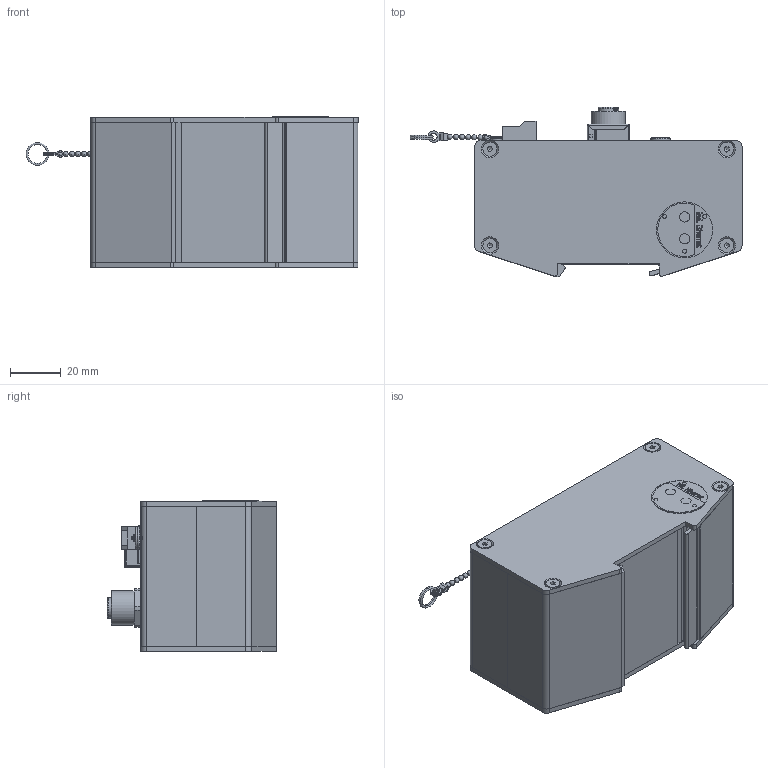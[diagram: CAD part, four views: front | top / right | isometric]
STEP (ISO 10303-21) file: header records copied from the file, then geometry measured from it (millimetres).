
FILE_DESCRIPTION (( 'STEP AP214' ), '1' );
FILE_NAME ('2612030.000-AA Musteraufbau Kormoran_.step', '2022-09-22T07:57:55', ( '' ), ( '' ), 'SwSTEP 2.0', 'SolidWorks 2020', '' );
FILE_SCHEMA (( 'AUTOMOTIVE_DESIGN' ));
Length unit declared in the file: millimetre
Products named in the file (17): 0594003.000-AA  LWL-Kupplung HYB-SM_E2000_APC-FC_APC gruen_000; 101324; 103417_000; 101322_000; 103482_000; socket countersunk head screw_iso_ISO 10642 - M3 x 8 - 8N; 101344; 2903020.T01-#01  BG Buchse 8-pol. konfekt. Gregaria_000; 102811_000; 2612030.000-AA  Musteraufbau Kormoran_; 103065_000; 103410_000; 103227_000; 102824_000; 103084_000; 101323; 101325
Assembly tree (34 placements, depth 3):
  2612030.000-AA  Musteraufbau Kormoran_
    102811_000
    socket countersunk head screw_iso_ISO 10642 - M3 x 8 - 8N  x8
    102824_000
    2903020.T01-#01  BG Buchse 8-pol. konfekt. Gregaria_000
    0594003.000-AA  LWL-Kupplung HYB-SM_E2000_APC-FC_APC gruen_000
    103065_000
    103084_000
    103227_000  x4
    103410_000
    103417_000
    103482_000
    101322_000
      101323  x2
      101324
      101325  x8
    101344
Bounding box: 130.4 x 66.55 x 59.2 mm (x, y, z)
Volume: 48817.1 mm3; surface area: 68812 mm2
Topology: 43 solids, 66 shells, 3130 faces, 8915 edges, 6006 vertices
Faces by surface type: plane 1876, bspline 751, cylinder 334, cone 105, torus 42, sphere 22
Full cylindrical faces by diameter (mm): 0.5 x8, 0.85 x8, 1 x8, 1.4 x8, 1.5 x16, 1.55 x1, 1.6 x3, 1.9 x4, 1.97 x4, 2.2 x3, 2.7 x2, 3 x8, 3.3 x8, 4 x3, 5.54 x8, 7.8 x1, 8 x1, 9.6 x2, 10.7 x1, 10.75 x1, 11 x6, 13.5 x1, 22 x1
Entity records: 163163 total; most frequent: CARTESIAN_POINT 65590, ORIENTED_EDGE 15411, DIRECTION 11404, EDGE_CURVE 8242, VERTEX_POINT 5671, VECTOR 5448, LINE 5448, EDGE_LOOP 3314
